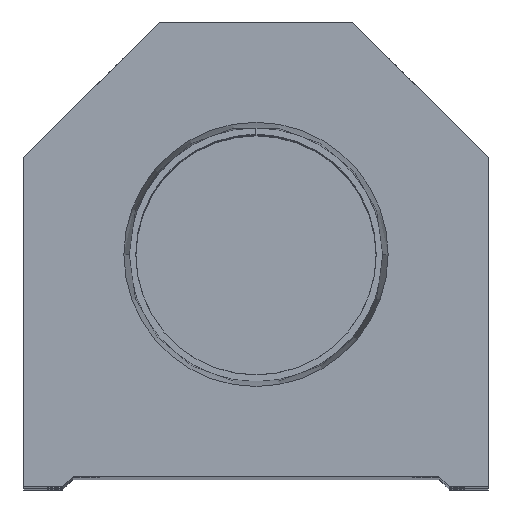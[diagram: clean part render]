
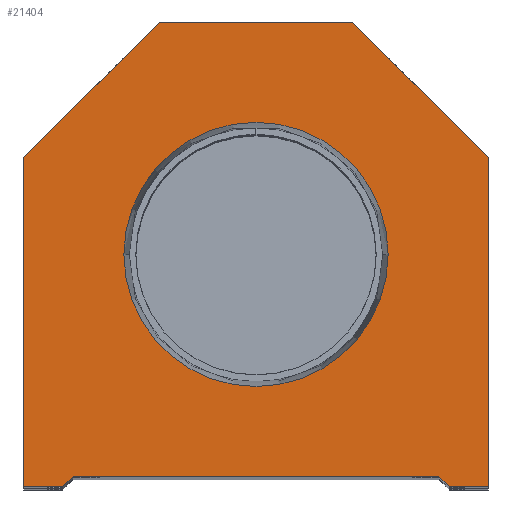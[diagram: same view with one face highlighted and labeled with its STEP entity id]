
A CAD part, top view. The second image highlights one B-rep face of the part: STEP entity #21404.
In plain terms, the highlighted planar face has unit normal (0, 0, 1).
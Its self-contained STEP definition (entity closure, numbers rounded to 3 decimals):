
#62 = PLANE ( 'NONE',  #11528 ) ;
#374 = CARTESIAN_POINT ( 'NONE',  ( 22.25, 0., 0. ) ) ;
#623 = EDGE_CURVE ( 'NONE', #13467, #19976, #7299, .T. ) ;
#702 = ORIENTED_EDGE ( 'NONE', *, *, #22248, .T. ) ;
#971 = CARTESIAN_POINT ( 'NONE',  ( -12.647, 22.25, 0. ) ) ;
#977 = ORIENTED_EDGE ( 'NONE', *, *, #17473, .T. ) ;
#1078 = LINE ( 'NONE', #22129, #9775 ) ;
#1576 = VERTEX_POINT ( 'NONE', #11616 ) ;
#1726 = CARTESIAN_POINT ( 'NONE',  ( 22.25, 31.5, 0. ) ) ;
#1792 = VERTEX_POINT ( 'NONE', #13037 ) ;
#1895 = CARTESIAN_POINT ( 'NONE',  ( -17.5, 1., 0. ) ) ;
#1938 = ORIENTED_EDGE ( 'NONE', *, *, #8639, .T. ) ;
#2493 = ORIENTED_EDGE ( 'NONE', *, *, #11142, .F. ) ;
#3301 = VERTEX_POINT ( 'NONE', #18818 ) ;
#3405 = LINE ( 'NONE', #4772, #10111 ) ;
#3440 = VERTEX_POINT ( 'NONE', #14163 ) ;
#3548 = VECTOR ( 'NONE', #21347, 1000. ) ;
#3774 = LINE ( 'NONE', #13608, #17525 ) ;
#3884 = DIRECTION ( 'NONE',  ( 0., 0., 1. ) ) ;
#3952 = EDGE_CURVE ( 'NONE', #1792, #4944, #19303, .T. ) ;
#4053 = LINE ( 'NONE', #7682, #21696 ) ;
#4140 = DIRECTION ( 'NONE',  ( 0.707, 0.707, 0. ) ) ;
#4300 = EDGE_CURVE ( 'NONE', #4944, #3301, #3774, .T. ) ;
#4772 = CARTESIAN_POINT ( 'NONE',  ( -22.25, 31.5, 0. ) ) ;
#4944 = VERTEX_POINT ( 'NONE', #21785 ) ;
#5392 = DIRECTION ( 'NONE',  ( 0., -1., 0. ) ) ;
#5552 = ORIENTED_EDGE ( 'NONE', *, *, #4300, .T. ) ;
#5805 = EDGE_LOOP ( 'NONE', ( #7029, #2493 ) ) ;
#6311 = DIRECTION ( 'NONE',  ( 0., 1., 0. ) ) ;
#6570 = EDGE_CURVE ( 'NONE', #3440, #18191, #18998, .T. ) ;
#7029 = ORIENTED_EDGE ( 'NONE', *, *, #6570, .F. ) ;
#7081 = ORIENTED_EDGE ( 'NONE', *, *, #16409, .T. ) ;
#7148 = ORIENTED_EDGE ( 'NONE', *, *, #623, .T. ) ;
#7200 = CARTESIAN_POINT ( 'NONE',  ( -22.25, 0., 0. ) ) ;
#7299 = LINE ( 'NONE', #14070, #14602 ) ;
#7426 = DIRECTION ( 'NONE',  ( 0., 0., 1. ) ) ;
#7682 = CARTESIAN_POINT ( 'NONE',  ( 9.25, 44.5, 0. ) ) ;
#8039 = EDGE_CURVE ( 'NONE', #13746, #11720, #21819, .T. ) ;
#8170 = AXIS2_PLACEMENT_3D ( 'NONE', #10931, #7426, #13784 ) ;
#8336 = CIRCLE ( 'NONE', #13368, 12.647 ) ;
#8542 = DIRECTION ( 'NONE',  ( 1., 0., 0. ) ) ;
#8573 = VERTEX_POINT ( 'NONE', #17294 ) ;
#8639 = EDGE_CURVE ( 'NONE', #8573, #13746, #13988, .T. ) ;
#8873 = CARTESIAN_POINT ( 'NONE',  ( 0., 22.25, 0. ) ) ;
#8885 = VECTOR ( 'NONE', #15480, 1000. ) ;
#9775 = VECTOR ( 'NONE', #22015, 1000. ) ;
#10111 = VECTOR ( 'NONE', #15388, 1000. ) ;
#10267 = DIRECTION ( 'NONE',  ( 1., 0., 0. ) ) ;
#10618 = CARTESIAN_POINT ( 'NONE',  ( 22.25, 31.5, 0. ) ) ;
#10731 = CARTESIAN_POINT ( 'NONE',  ( 17.5, 0., 0. ) ) ;
#10931 = CARTESIAN_POINT ( 'NONE',  ( 0., 22.25, 0. ) ) ;
#11142 = EDGE_CURVE ( 'NONE', #18191, #3440, #8336, .T. ) ;
#11214 = FACE_BOUND ( 'NONE', #5805, .T. ) ;
#11528 = AXIS2_PLACEMENT_3D ( 'NONE', #18464, #18866, #10267 ) ;
#11616 = CARTESIAN_POINT ( 'NONE',  ( 9.25, 44.5, 0. ) ) ;
#11720 = VERTEX_POINT ( 'NONE', #1726 ) ;
#11814 = CARTESIAN_POINT ( 'NONE',  ( -9.25, 44.5, 0. ) ) ;
#12254 = EDGE_CURVE ( 'NONE', #11720, #1576, #19213, .T. ) ;
#12866 = DIRECTION ( 'NONE',  ( -1., 0., 0. ) ) ;
#13037 = CARTESIAN_POINT ( 'NONE',  ( -22.25, 31.5, 0. ) ) ;
#13299 = ORIENTED_EDGE ( 'NONE', *, *, #12254, .T. ) ;
#13368 = AXIS2_PLACEMENT_3D ( 'NONE', #8873, #3884, #15764 ) ;
#13467 = VERTEX_POINT ( 'NONE', #1895 ) ;
#13608 = CARTESIAN_POINT ( 'NONE',  ( -17.5, 0., 0. ) ) ;
#13746 = VERTEX_POINT ( 'NONE', #374 ) ;
#13784 = DIRECTION ( 'NONE',  ( 1., 0., 0. ) ) ;
#13988 = LINE ( 'NONE', #10731, #3548 ) ;
#14070 = CARTESIAN_POINT ( 'NONE',  ( -17.5, 1., 0. ) ) ;
#14163 = CARTESIAN_POINT ( 'NONE',  ( 12.647, 22.25, 0. ) ) ;
#14602 = VECTOR ( 'NONE', #20968, 1000. ) ;
#14831 = VECTOR ( 'NONE', #4140, 1000. ) ;
#15388 = DIRECTION ( 'NONE',  ( -0.707, -0.707, 0. ) ) ;
#15480 = DIRECTION ( 'NONE',  ( -0.707, 0.707, 0. ) ) ;
#15764 = DIRECTION ( 'NONE',  ( 1., 0., 0. ) ) ;
#16101 = EDGE_CURVE ( 'NONE', #1576, #21966, #4053, .T. ) ;
#16248 = LINE ( 'NONE', #19635, #14831 ) ;
#16409 = EDGE_CURVE ( 'NONE', #3301, #13467, #16248, .T. ) ;
#16951 = CARTESIAN_POINT ( 'NONE',  ( 17.5, 1., 0. ) ) ;
#17294 = CARTESIAN_POINT ( 'NONE',  ( 18.5, 0., 0. ) ) ;
#17473 = EDGE_CURVE ( 'NONE', #19976, #8573, #1078, .T. ) ;
#17525 = VECTOR ( 'NONE', #8542, 1000. ) ;
#17870 = VECTOR ( 'NONE', #5392, 1000. ) ;
#18122 = FACE_OUTER_BOUND ( 'NONE', #20671, .T. ) ;
#18191 = VERTEX_POINT ( 'NONE', #971 ) ;
#18464 = CARTESIAN_POINT ( 'NONE',  ( 0., 0., 0. ) ) ;
#18543 = CARTESIAN_POINT ( 'NONE',  ( 22.25, 0., 0. ) ) ;
#18818 = CARTESIAN_POINT ( 'NONE',  ( -18.5, 0., 0. ) ) ;
#18866 = DIRECTION ( 'NONE',  ( 0., 0., 1. ) ) ;
#18998 = CIRCLE ( 'NONE', #8170, 12.647 ) ;
#19062 = VECTOR ( 'NONE', #6311, 1000. ) ;
#19213 = LINE ( 'NONE', #10618, #8885 ) ;
#19303 = LINE ( 'NONE', #7200, #17870 ) ;
#19635 = CARTESIAN_POINT ( 'NONE',  ( -9.25, 9.25, 0. ) ) ;
#19976 = VERTEX_POINT ( 'NONE', #16951 ) ;
#20328 = ORIENTED_EDGE ( 'NONE', *, *, #8039, .T. ) ;
#20671 = EDGE_LOOP ( 'NONE', ( #5552, #7081, #7148, #977, #1938, #20328, #13299, #21324, #702, #21748 ) ) ;
#20968 = DIRECTION ( 'NONE',  ( 1., 0., 0. ) ) ;
#21324 = ORIENTED_EDGE ( 'NONE', *, *, #16101, .T. ) ;
#21347 = DIRECTION ( 'NONE',  ( 1., 0., 0. ) ) ;
#21404 = ADVANCED_FACE ( 'NONE', ( #11214, #18122 ), #62, .T. ) ;
#21696 = VECTOR ( 'NONE', #12866, 1000. ) ;
#21748 = ORIENTED_EDGE ( 'NONE', *, *, #3952, .T. ) ;
#21785 = CARTESIAN_POINT ( 'NONE',  ( -22.25, 0., 0. ) ) ;
#21819 = LINE ( 'NONE', #18543, #19062 ) ;
#21966 = VERTEX_POINT ( 'NONE', #11814 ) ;
#22015 = DIRECTION ( 'NONE',  ( 0.707, -0.707, 0. ) ) ;
#22129 = CARTESIAN_POINT ( 'NONE',  ( 9.25, 9.25, 0. ) ) ;
#22248 = EDGE_CURVE ( 'NONE', #21966, #1792, #3405, .T. ) ;
